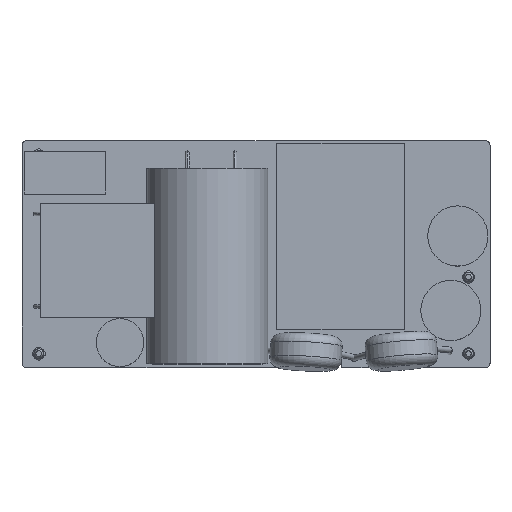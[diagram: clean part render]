
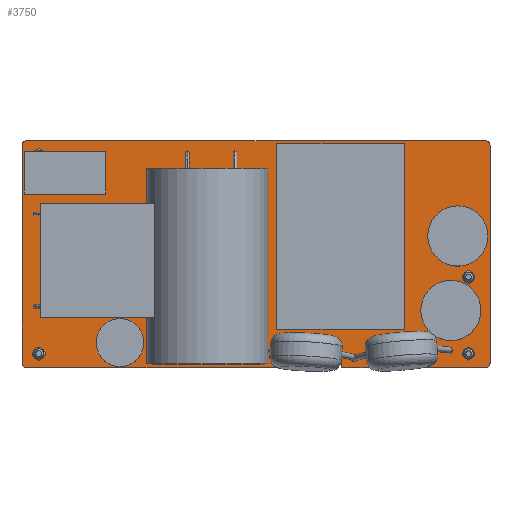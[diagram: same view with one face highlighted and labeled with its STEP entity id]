
A CAD part, top view. The second image highlights one B-rep face of the part: STEP entity #3750.
In plain terms, the highlighted planar face has unit normal (0, 0, 1).
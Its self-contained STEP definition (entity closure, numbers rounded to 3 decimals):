
#1790=CARTESIAN_POINT('',(3.487,48.869,1.6));
#1800=VERTEX_POINT('',#1790);
#1830=CARTESIAN_POINT('',(3.487,48.869,1.6));
#1840=DIRECTION('',(1.,0.,0.));
#1850=VECTOR('',#1840,1.);
#1860=LINE('',#1830,#1850);
#1870=CARTESIAN_POINT('',(33.487,48.869,1.6));
#1880=VERTEX_POINT('',#1870);
#1890=EDGE_CURVE('',#1800,#1880,#1860,.T.);
#2050=CARTESIAN_POINT('',(33.487,49.868,1.6));
#2060=DIRECTION('',(0.,-1.,0.));
#2070=VECTOR('',#2060,1.);
#2080=LINE('',#2050,#2070);
#2090=CARTESIAN_POINT('',(33.487,49.868,1.6));
#2100=VERTEX_POINT('',#2090);
#2110=EDGE_CURVE('',#2100,#1880,#2080,.T.);
#2240=CARTESIAN_POINT('',(25.105,47.567,1.6));
#2250=DIRECTION('',(0.,0.,-1.));
#2260=DIRECTION('',(-1.,0.,0.));
#2270=AXIS2_PLACEMENT_3D('',#2240,#2250,#2260);
#2280=PLANE('',#2270);
#2290=CARTESIAN_POINT('',(49.737,50.368,1.6));
#2300=DIRECTION('',(0.,0.,-1.));
#2310=DIRECTION('',(1.,0.,0.));
#2320=AXIS2_PLACEMENT_3D('',#2290,#2300,#2310);
#2330=CIRCLE('',#2320,0.6);
#2340=CARTESIAN_POINT('',(49.137,50.368,1.6));
#2350=VERTEX_POINT('',#2340);
#2360=CARTESIAN_POINT('',(50.337,50.368,1.6));
#2370=VERTEX_POINT('',#2360);
#2380=EDGE_CURVE('',#2350,#2370,#2330,.T.);
#2390=ORIENTED_EDGE('',*,*,#2380,.T.);
#2400=EDGE_CURVE('',#2370,#2350,#2330,.T.);
#2410=ORIENTED_EDGE('',*,*,#2400,.T.);
#2420=EDGE_LOOP('',(#2410,#2390));
#2430=FACE_BOUND('',#2420,.T.);
#2440=CARTESIAN_POINT('',(4.737,71.118,1.6));
#2450=DIRECTION('',(0.,0.,1.));
#2460=DIRECTION('',(1.,0.,0.));
#2470=AXIS2_PLACEMENT_3D('',#2440,#2450,#2460);
#2480=CIRCLE('',#2470,0.625);
#2490=CARTESIAN_POINT('',(5.362,71.118,1.6));
#2500=VERTEX_POINT('',#2490);
#2510=CARTESIAN_POINT('',(4.112,71.118,1.6));
#2520=VERTEX_POINT('',#2510);
#2530=EDGE_CURVE('',#2500,#2520,#2480,.T.);
#2540=ORIENTED_EDGE('',*,*,#2530,.F.);
#2550=EDGE_CURVE('',#2520,#2500,#2480,.T.);
#2560=ORIENTED_EDGE('',*,*,#2550,.F.);
#2570=EDGE_LOOP('',(#2560,#2540));
#2580=FACE_BOUND('',#2570,.T.);
#2590=CARTESIAN_POINT('',(4.737,50.368,1.6));
#2600=DIRECTION('',(0.,0.,-1.));
#2610=DIRECTION('',(1.,0.,0.));
#2620=AXIS2_PLACEMENT_3D('',#2590,#2600,#2610);
#2630=CIRCLE('',#2620,0.625);
#2640=CARTESIAN_POINT('',(4.112,50.368,1.6));
#2650=VERTEX_POINT('',#2640);
#2660=CARTESIAN_POINT('',(5.362,50.368,1.6));
#2670=VERTEX_POINT('',#2660);
#2680=EDGE_CURVE('',#2650,#2670,#2630,.T.);
#2690=ORIENTED_EDGE('',*,*,#2680,.T.);
#2700=EDGE_CURVE('',#2670,#2650,#2630,.T.);
#2710=ORIENTED_EDGE('',*,*,#2700,.T.);
#2720=EDGE_LOOP('',(#2710,#2690));
#2730=FACE_BOUND('',#2720,.T.);
#2740=CARTESIAN_POINT('',(49.737,58.368,1.6));
#2750=DIRECTION('',(0.,0.,-1.));
#2760=DIRECTION('',(1.,0.,0.));
#2770=AXIS2_PLACEMENT_3D('',#2740,#2750,#2760);
#2780=CIRCLE('',#2770,0.6);
#2790=CARTESIAN_POINT('',(49.137,58.368,1.6));
#2800=VERTEX_POINT('',#2790);
#2810=CARTESIAN_POINT('',(50.337,58.368,1.6));
#2820=VERTEX_POINT('',#2810);
#2830=EDGE_CURVE('',#2800,#2820,#2780,.T.);
#2840=ORIENTED_EDGE('',*,*,#2830,.T.);
#2850=EDGE_CURVE('',#2820,#2800,#2780,.T.);
#2860=ORIENTED_EDGE('',*,*,#2850,.T.);
#2870=EDGE_LOOP('',(#2860,#2840));
#2880=FACE_BOUND('',#2870,.T.);
#2890=CARTESIAN_POINT('',(51.486,49.369,1.6));
#2900=DIRECTION('',(0.,0.,1.));
#2910=DIRECTION('',(0.,-1.,0.));
#2920=AXIS2_PLACEMENT_3D('',#2890,#2900,#2910);
#2930=CIRCLE('',#2920,0.5);
#2940=CARTESIAN_POINT('',(51.486,48.869,1.6));
#2950=VERTEX_POINT('',#2940);
#2960=CARTESIAN_POINT('',(51.986,49.369,1.6));
#2970=VERTEX_POINT('',#2960);
#2980=EDGE_CURVE('',#2950,#2970,#2930,.T.);
#2990=ORIENTED_EDGE('',*,*,#2980,.T.);
#3000=CARTESIAN_POINT('',(36.487,48.869,1.6));
#3010=DIRECTION('',(1.,0.,0.));
#3020=VECTOR('',#3010,1.);
#3030=LINE('',#3000,#3020);
#3040=CARTESIAN_POINT('',(36.487,48.869,1.6));
#3050=VERTEX_POINT('',#3040);
#3060=EDGE_CURVE('',#3050,#2950,#3030,.T.);
#3070=ORIENTED_EDGE('',*,*,#3060,.T.);
#3080=CARTESIAN_POINT('',(36.487,48.869,1.6));
#3090=DIRECTION('',(0.,1.,0.));
#3100=VECTOR('',#3090,1.);
#3110=LINE('',#3080,#3100);
#3120=CARTESIAN_POINT('',(36.487,49.868,1.6));
#3130=VERTEX_POINT('',#3120);
#3140=EDGE_CURVE('',#3050,#3130,#3110,.T.);
#3150=ORIENTED_EDGE('',*,*,#3140,.F.);
#3160=CARTESIAN_POINT('',(36.487,49.868,1.6));
#3170=DIRECTION('',(-1.,0.,0.));
#3180=VECTOR('',#3170,1.);
#3190=LINE('',#3160,#3180);
#3200=EDGE_CURVE('',#3130,#2100,#3190,.T.);
#3210=ORIENTED_EDGE('',*,*,#3200,.F.);
#3220=ORIENTED_EDGE('',*,*,#2110,.F.);
#3230=ORIENTED_EDGE('',*,*,#1890,.T.);
#3240=CARTESIAN_POINT('',(3.487,49.369,1.6));
#3250=DIRECTION('',(0.,0.,1.));
#3260=DIRECTION('',(-1.,0.,0.));
#3270=AXIS2_PLACEMENT_3D('',#3240,#3250,#3260);
#3280=CIRCLE('',#3270,0.5);
#3290=CARTESIAN_POINT('',(2.987,49.369,1.6));
#3300=VERTEX_POINT('',#3290);
#3310=EDGE_CURVE('',#3300,#1800,#3280,.T.);
#3320=ORIENTED_EDGE('',*,*,#3310,.T.);
#3330=CARTESIAN_POINT('',(2.987,49.369,1.6));
#3340=DIRECTION('',(0.,1.,0.));
#3350=VECTOR('',#3340,1.);
#3360=LINE('',#3330,#3350);
#3370=CARTESIAN_POINT('',(2.987,72.168,1.6));
#3380=VERTEX_POINT('',#3370);
#3390=EDGE_CURVE('',#3300,#3380,#3360,.T.);
#3400=ORIENTED_EDGE('',*,*,#3390,.F.);
#3410=CARTESIAN_POINT('',(3.487,72.168,1.6));
#3420=DIRECTION('',(0.,0.,-1.));
#3430=DIRECTION('',(-1.,0.,0.));
#3440=AXIS2_PLACEMENT_3D('',#3410,#3420,#3430);
#3450=CIRCLE('',#3440,0.5);
#3460=CARTESIAN_POINT('',(3.487,72.668,1.6));
#3470=VERTEX_POINT('',#3460);
#3480=EDGE_CURVE('',#3380,#3470,#3450,.T.);
#3490=ORIENTED_EDGE('',*,*,#3480,.F.);
#3500=CARTESIAN_POINT('',(51.486,72.668,1.6));
#3510=DIRECTION('',(-1.,0.,0.));
#3520=VECTOR('',#3510,1.);
#3530=LINE('',#3500,#3520);
#3540=CARTESIAN_POINT('',(51.486,72.668,1.6));
#3550=VERTEX_POINT('',#3540);
#3560=EDGE_CURVE('',#3550,#3470,#3530,.T.);
#3570=ORIENTED_EDGE('',*,*,#3560,.T.);
#3580=CARTESIAN_POINT('',(51.486,72.168,1.6));
#3590=DIRECTION('',(0.,0.,1.));
#3600=DIRECTION('',(1.,0.,0.));
#3610=AXIS2_PLACEMENT_3D('',#3580,#3590,#3600);
#3620=CIRCLE('',#3610,0.5);
#3630=CARTESIAN_POINT('',(51.986,72.168,1.6));
#3640=VERTEX_POINT('',#3630);
#3650=EDGE_CURVE('',#3640,#3550,#3620,.T.);
#3660=ORIENTED_EDGE('',*,*,#3650,.T.);
#3670=CARTESIAN_POINT('',(51.986,72.168,1.6));
#3680=DIRECTION('',(0.,-1.,0.));
#3690=VECTOR('',#3680,1.);
#3700=LINE('',#3670,#3690);
#3710=EDGE_CURVE('',#3640,#2970,#3700,.T.);
#3720=ORIENTED_EDGE('',*,*,#3710,.F.);
#3730=EDGE_LOOP('',(#3720,#3660,#3570,#3490,#3400,#3320,#3230,#3220,
#3210,#3150,#3070,#2990));
#3740=FACE_OUTER_BOUND('',#3730,.T.);
#3750=ADVANCED_FACE('',(#2430,#2580,#2730,#2880,#3740),#2280,.F.);
